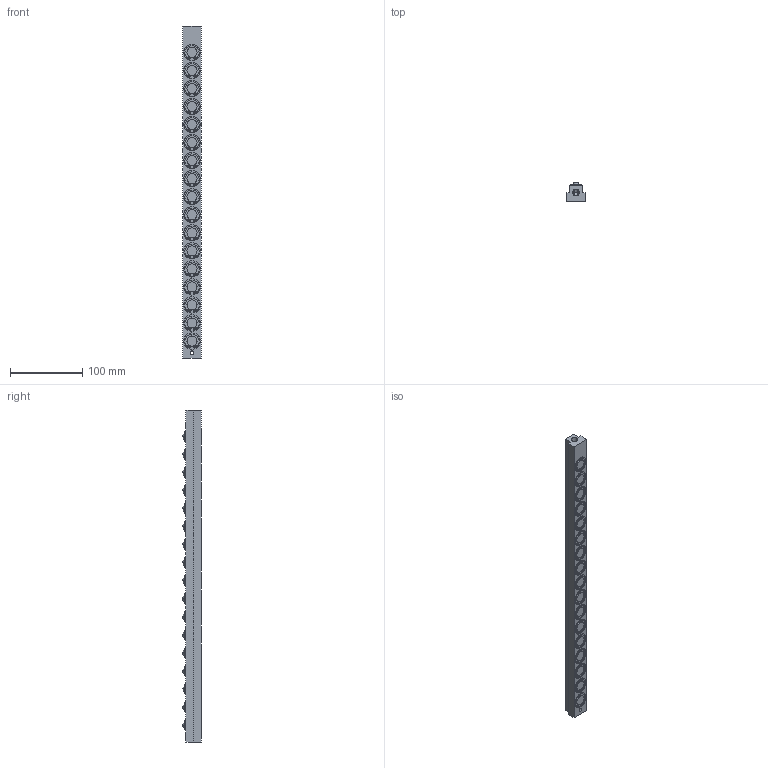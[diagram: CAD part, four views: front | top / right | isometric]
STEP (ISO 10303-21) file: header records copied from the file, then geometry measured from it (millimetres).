
FILE_DESCRIPTION (( 'STEP AP203' ), '1' );
FILE_NAME ('PVL13T-17.STEP', '2015-12-24T05:56:55', ( '' ), ( '' ), 'SwSTEP 2.0', 'SolidWorks 2013', '' );
FILE_SCHEMA (( 'CONFIG_CONTROL_DESIGN' ));
Length unit declared in the file: millimetre
Products named in the file (1): PVL13T-17
Bounding box: 25 x 26.26 x 460 mm (x, y, z)
Volume: 209919.2 mm3; surface area: 49554.6 mm2
Topology: 2 solids, 2 shells, 516 faces, 1231 edges, 823 vertices
Faces by surface type: cylinder 282, plane 158, torus 34, sphere 34, cone 8
Entity records: 15446 total; most frequent: DIRECTION 3037, CARTESIAN_POINT 2567, ORIENTED_EDGE 2454, AXIS2_PLACEMENT_3D 1293, EDGE_CURVE 1227, VERTEX_POINT 823, CIRCLE 776, EDGE_LOOP 626
